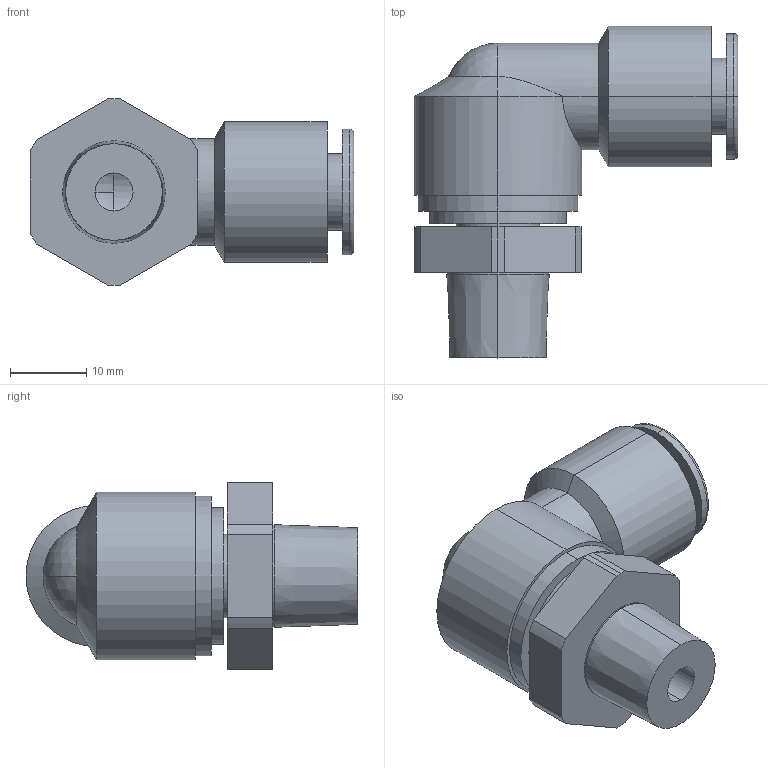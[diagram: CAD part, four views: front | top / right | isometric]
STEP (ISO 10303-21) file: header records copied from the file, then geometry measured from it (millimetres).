
FILE_DESCRIPTION (( 'STEP AP214' ), '1' );
FILE_NAME ('KSL10-02S.step.step', '2022-12-12T11:08:01', ( '' ), ( '' ), 'SwSTEP 2.0', 'SolidWorks 2022', '' );
FILE_SCHEMA (( 'AUTOMOTIVE_DESIGN' ));
Length unit declared in the file: millimetre
Products named in the file (2): KSL10-02S.step_KS_L10-02; KSL10-02S.step
Assembly tree (1 placements, depth 2):
  KSL10-02S.step
    KSL10-02S.step_KS_L10-02
Bounding box: 42.5 x 43.6 x 24.5 mm (x, y, z)
Volume: 12623.9 mm3; surface area: 6835.8 mm2
Topology: 1 solids, 1 shells, 61 faces, 139 edges, 86 vertices
Faces by surface type: cylinder 31, plane 17, cone 7, sphere 4, torus 2
Entity records: 2552 total; most frequent: CARTESIAN_POINT 388, DIRECTION 339, ORIENTED_EDGE 274, AXIS2_PLACEMENT_3D 141, EDGE_CURVE 137, VERTEX_POINT 86, CIRCLE 76, EDGE_LOOP 71
